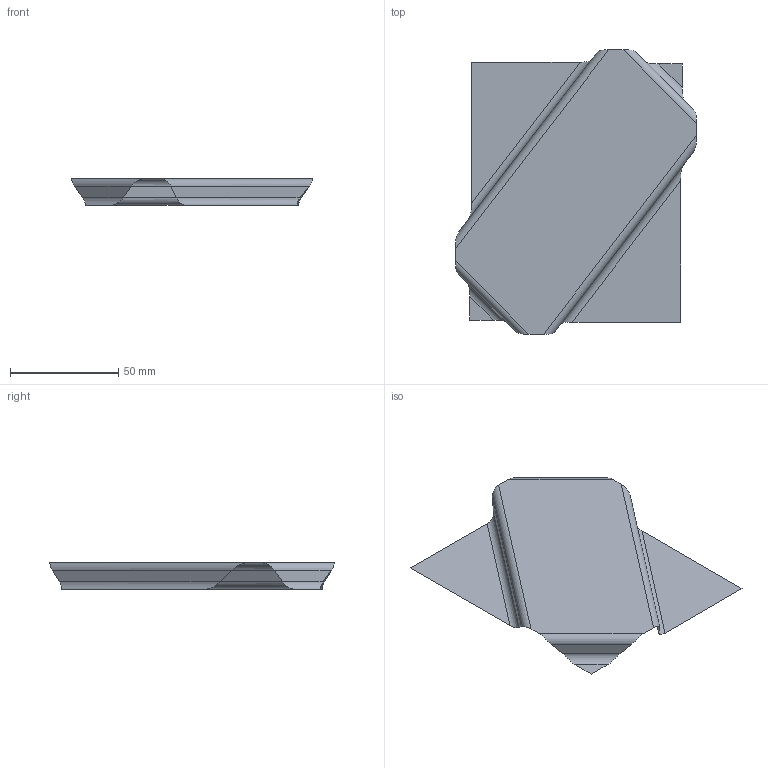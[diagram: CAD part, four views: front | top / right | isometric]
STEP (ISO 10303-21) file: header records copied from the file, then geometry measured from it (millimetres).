
FILE_DESCRIPTION(('CATIA V5 STEP Exchange'),'2;1');
FILE_NAME('C:\_Andres\UNIVERSIDAD\IQS\ASIGNATURAS\DAO\EXF\EXF-15161c\1original\Ripoll_Piera_Ej03-chapa_v21.stp','2016-03-04T16:56:07+00:00',('none'),('none'),'CATIA Version 5 Release 20 SP 1 (IN-10)','CATIA V5 STEP AP203','none');
FILE_SCHEMA(('CONFIG_CONTROL_DESIGN'));
Length unit declared in the file: millimetre
Products named in the file (1): Ripoll_Piera_Ej03-chapa_v21
Bounding box: 111.01 x 131.01 x 12.29 mm (x, y, z)
Surface area: 14586.5 mm2 (no closed solid volume)
Topology: 0 solids, 1 shells, 17 faces, 52 edges, 36 vertices
Faces by surface type: plane 9, cylinder 8
Entity records: 625 total; most frequent: CARTESIAN_POINT 200, ORIENTED_EDGE 68, DIRECTION 59, EDGE_CURVE 52, VERTEX_POINT 36, B_SPLINE_CURVE_WITH_KNOTS 29, VECTOR 23, LINE 23
